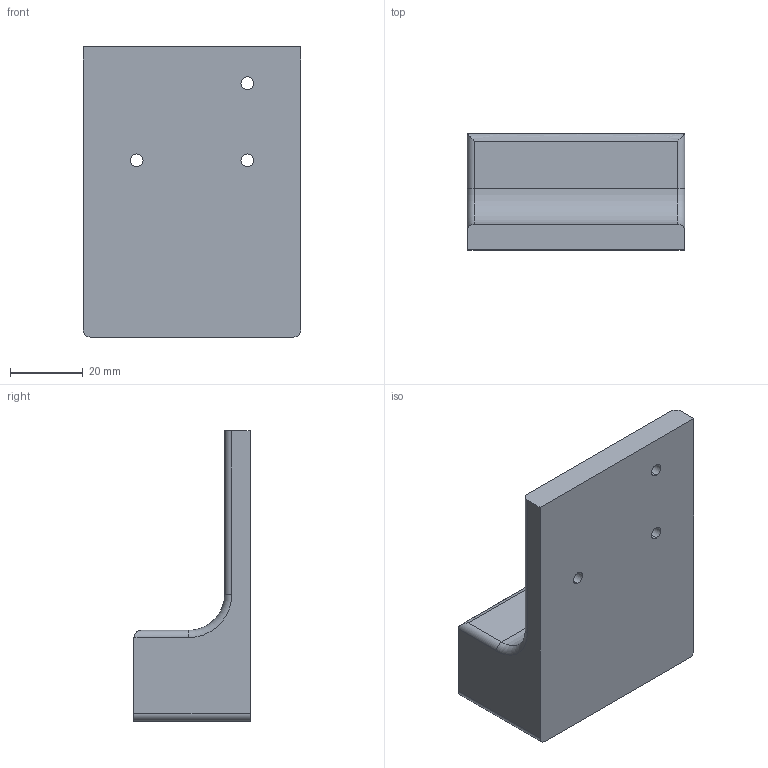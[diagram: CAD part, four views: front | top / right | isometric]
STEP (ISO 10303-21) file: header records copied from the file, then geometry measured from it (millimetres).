
FILE_DESCRIPTION (( 'STEP AP203' ), '1' );
FILE_NAME ('CP45 nozzle rack -left1.STEP', '2025-06-04T14:23:54', ( '' ), ( '' ), 'SwSTEP 2.0', 'SolidWorks 2021', '' );
FILE_SCHEMA (( 'CONFIG_CONTROL_DESIGN' ));
Length unit declared in the file: millimetre
Products named in the file (1): CP45 nozzle  rack -left1
Bounding box: 60 x 32 x 80 mm (x, y, z)
Volume: 60839.9 mm3; surface area: 19010.8 mm2
Topology: 1 solids, 1 shells, 85 faces, 234 edges, 154 vertices
Faces by surface type: plane 45, cylinder 37, torus 2, bspline 1
Entity records: 2910 total; most frequent: CARTESIAN_POINT 593, DIRECTION 474, ORIENTED_EDGE 468, EDGE_CURVE 234, AXIS2_PLACEMENT_3D 159, VECTOR 156, LINE 156, VERTEX_POINT 154
